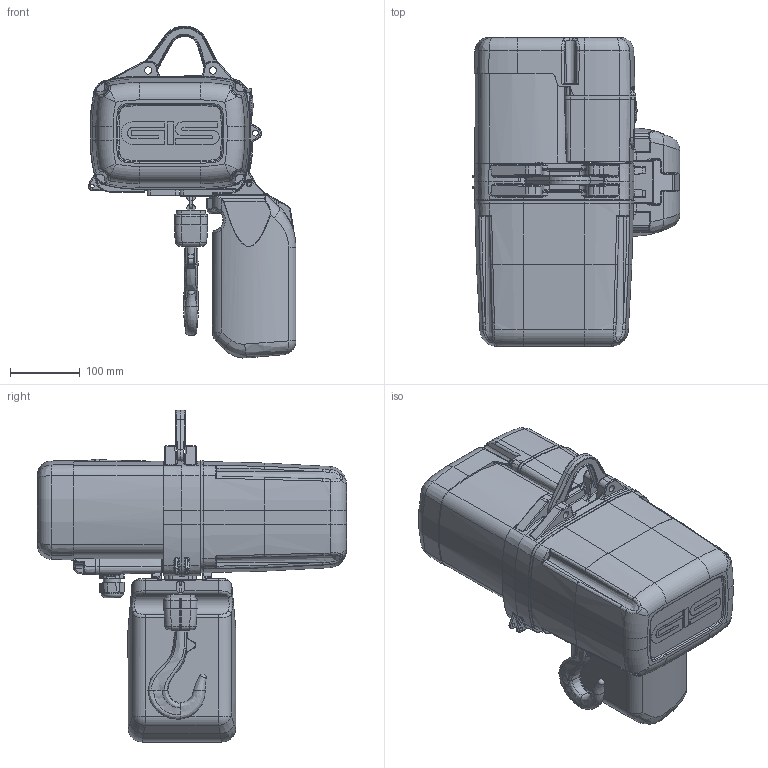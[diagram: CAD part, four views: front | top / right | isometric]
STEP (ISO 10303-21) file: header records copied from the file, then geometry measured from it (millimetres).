
FILE_DESCRIPTION(/* description */ (''),/* implementation_level */ '2;1');
FILE_NAME(/* name */ 'G:\Technik\3D-Dateien light_2015_10_02\Hebezeuge\Industrie GPM, GP\9510.9201.LGP 250 1str.stp',/* time_stamp */ '2017-04-06T15:44:31+02:00',/* author */ ('gispen'),/* organization */ (''),/* preprocessor_version */ 'ST-DEVELOPER v15.6',/* originating_system */ 'Autodesk Inventor 2015',/* authorisation */ '');
FILE_SCHEMA (('AUTOMOTIVE_DESIGN { 1 0 10303 214 3 1 1 }'));
Length unit declared in the file: millimetre
Products named in the file (1): 9510.9201.L
Bounding box: 298.82 x 444 x 477.02 mm (x, y, z)
Volume: 18066225 mm3; surface area: 632879.7 mm2
Topology: 4 solids, 4 shells, 1788 faces, 4484 edges, 2654 vertices
Faces by surface type: bspline 585, cylinder 455, plane 311, torus 283, cone 110, sphere 44
Full cylindrical faces by diameter (mm): 4.917 x1, 5.5 x2, 8 x3, 8.5 x4, 10.5 x6, 15 x1, 25 x2, 30 x1, 50 x1
Entity records: 85418 total; most frequent: CARTESIAN_POINT 44320, ORIENTED_EDGE 8722, DIRECTION 7981, EDGE_CURVE 4361, AXIS2_PLACEMENT_3D 3390, VERTEX_POINT 2638, EDGE_LOOP 1881, CIRCLE 1816
